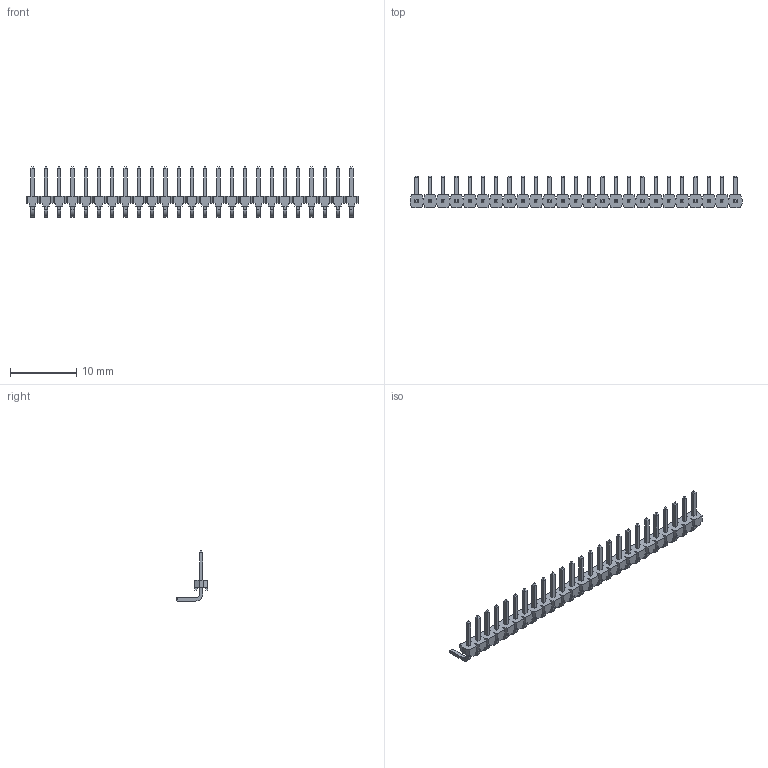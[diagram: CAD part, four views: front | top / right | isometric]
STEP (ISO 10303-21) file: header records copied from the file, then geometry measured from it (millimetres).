
FILE_DESCRIPTION(/* description */ (''),/* implementation_level */ '2;1');
FILE_NAME(/* name */ '951125-7622-AR',/* time_stamp */ '2007-03-13T08:49:30+01:00',/* author */ (''),/* organization */ (''),/* preprocessor_version */ 'ST-DEVELOPER v9',/* originating_system */ 'UGS - NX 4.0',/* authorisation */ '');
FILE_SCHEMA (('AUTOMOTIVE_DESIGN { 1 0 10303 214 1 1 1 1 }'));
Length unit declared in the file: millimetre
Products named in the file (1): 951125-7622-AR
Bounding box: 50 x 4.8 x 7.55 mm (x, y, z)
Volume: 167.8 mm3; surface area: 864.6 mm2
Topology: 1 solids, 1 shells, 904 faces, 2356 edges, 1504 vertices
Faces by surface type: plane 754, cylinder 150
Entity records: 27064 total; most frequent: CARTESIAN_POINT 4765, ORIENTED_EDGE 4712, DIRECTION 4366, EDGE_CURVE 2356, LINE 2156, VECTOR 2156, VERTEX_POINT 1504, AXIS2_PLACEMENT_3D 1105
